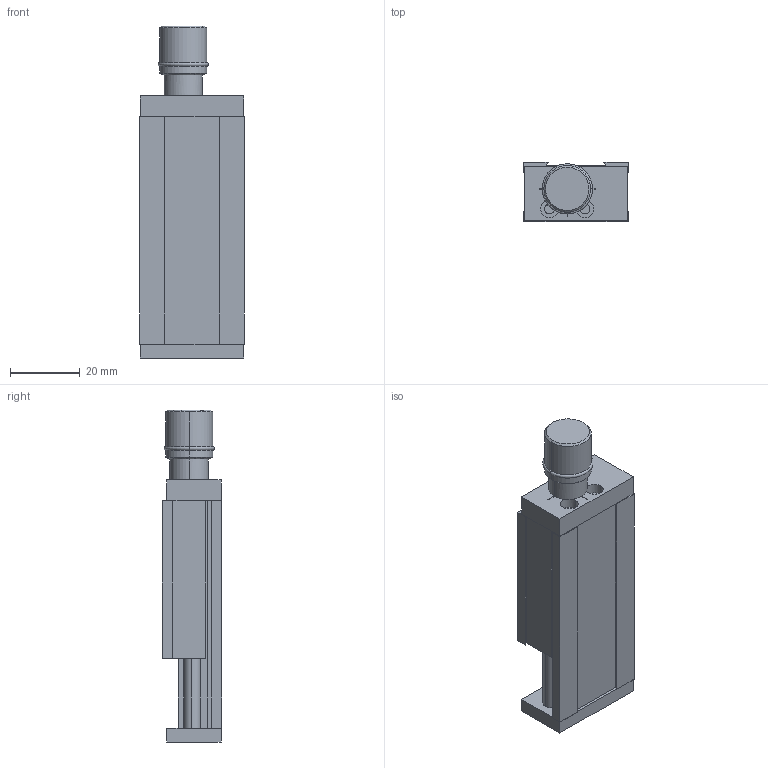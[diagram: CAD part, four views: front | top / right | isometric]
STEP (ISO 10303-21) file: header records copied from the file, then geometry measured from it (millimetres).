
FILE_DESCRIPTION (( 'STEP AP203' ), '1' );
FILE_NAME ('domiLINE 30.STEP', '2004-08-13T07:25:54', ( '' ), ( '' ), 'SwSTEP 2.0', 'SolidWorks 2004073', '' );
FILE_SCHEMA (( 'CONFIG_CONTROL_DESIGN' ));
Length unit declared in the file: millimetre
Products named in the file (3): Innenteil 30-+-D007616_ _L=65; domiLINE 30; Aussen 30 lght-+-D007617_ _Standard
Assembly tree (2 placements, depth 2):
  domiLINE 30
    Aussen 30 lght-+-D007617_ _Standard
    Innenteil 30-+-D007616_ _L=65
Bounding box: 30 x 17 x 95 mm (x, y, z)
Volume: 28307.3 mm3; surface area: 18830.5 mm2
Topology: 2 solids, 3 shells, 156 faces, 394 edges, 256 vertices
Faces by surface type: plane 102, cylinder 48, cone 4, torus 2
Entity records: 5003 total; most frequent: DIRECTION 826, CARTESIAN_POINT 811, ORIENTED_EDGE 788, EDGE_CURVE 394, LINE 284, VECTOR 284, AXIS2_PLACEMENT_3D 271, VERTEX_POINT 256
